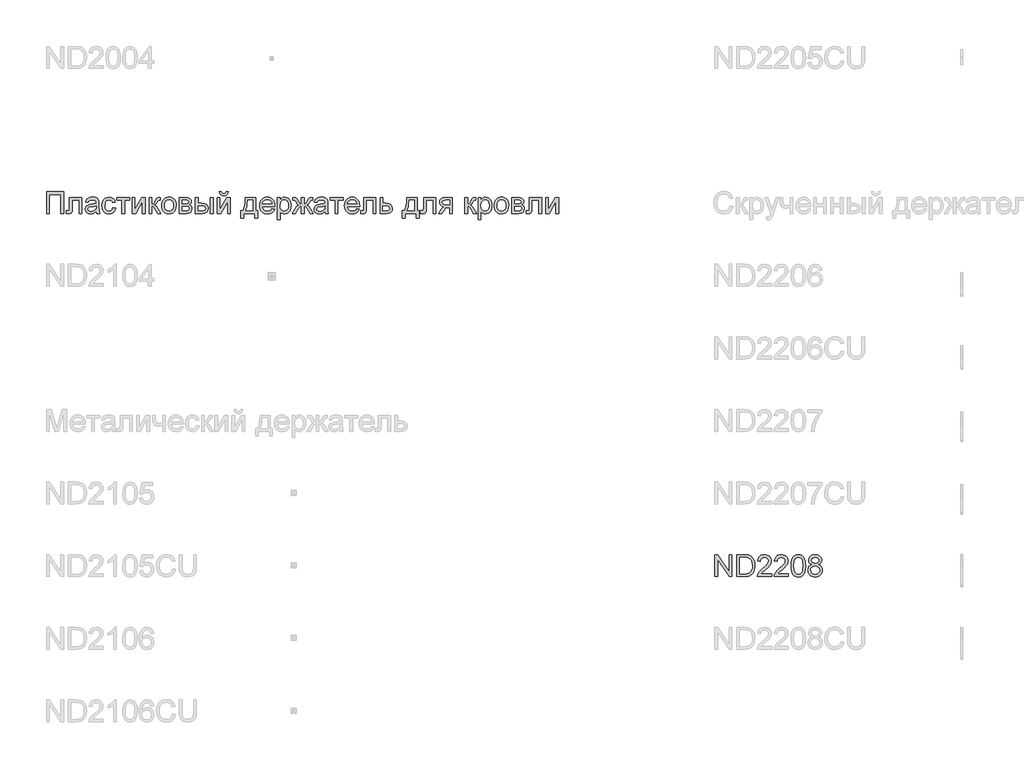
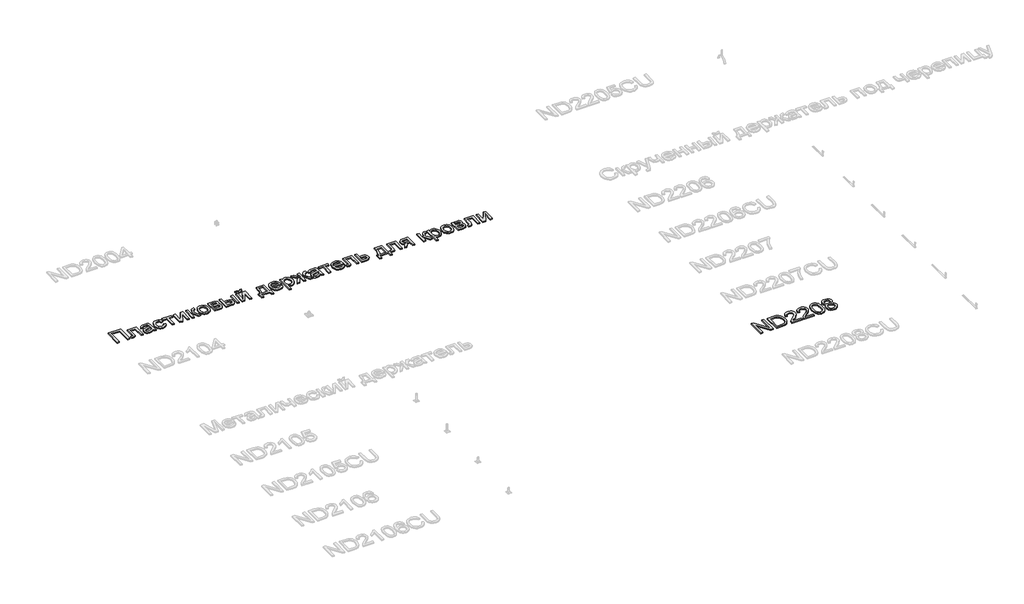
# One storey, part 91 of 124: 2 proxies.
"""IFC4 building model written with IfcOpenShell, lengths in millimetres."""

from ifc_helpers import new_model, si_unit, origin, origin_with_axes, place, context, project, spatial, polyline, outline, extrude, element, save

model = new_model("IFC4")

# Units and contexts
model_context = context("Model", 3, world=origin())
ifc_project = project(units=[si_unit("LENGTHUNIT", "METRE", prefix="MILLI")], contexts=[model_context])

# Site, building, storey
site = spatial("IfcSite", under=ifc_project)
building = spatial("IfcBuilding", under=site)
storey = spatial("IfcBuildingStorey", under=building, Name="Этаж 01", Elevation=0.0)

# Proxies
placement = place(None, origin())
element("IfcBuildingElementProxy", 1, Name="300", ObjectType="300", at=placement, inside=storey, context=model_context, shape_type="SweptSolid", body=[
    extrude(outline(polyline([(14140.1671275, -18218.1451728), (14375.6116044, -18218.1451728), (14375.6116044, -18519.5141033), (14337.9404881, -18519.5141033), (14337.9404881, -18255.8162891), (14177.8382438, -18255.8162891), (14177.8382438, -18519.5141033), (14140.1671275, -18519.5141033), (14140.1671275, -18218.1451728)])), origin_with_axes(), (0.0, 0.0, 1.0), 20.0),
    extrude(outline(polyline([(14455.6627266, -18298.196295), (14625.18275, -18298.196295), (14625.18275, -18519.2933741), (14587.5116337, -18519.2933741), (14587.5116337, -18335.8674113), (14493.3338429, -18335.8674113), (14493.3338429, -18441.4495439), (14490.7954571, -18490.15712), (14486.0405823, -18501.1843829), (14476.8527295, -18510.7217236), (14462.9100019, -18517.3160083), (14443.8905027, -18519.5141033), (14413.2827207, -18517.6011169), (14413.2827207, -18481.842987), (14430.1317161, -18481.842987), (14447.1646525, -18479.5253304), (14453.9704694, -18472.1676905), (14455.6627266, -18439.3158283), (14455.6627266, -18298.196295)])), origin_with_axes(), (0.0, 0.0, 1.0), 20.0),
    extrude(outline(polyline([(14822.9561106, -18491.260766), (14804.957484, -18506.6934157), (14786.4254285, -18516.7917765), (14766.9368798, -18522.3651887), (14746.0687736, -18524.2229928), (14714.5872718, -18519.7532266), (14691.3647209, -18506.3439278), (14677.0449142, -18485.9816594), (14672.2716454, -18460.652984), (14674.0742671, -18445.0363933), (14679.4821325, -18430.8545424), (14687.8238567, -18418.7144366), (14698.4280552, -18409.2230811), (14724.8051943, -18396.8622461), (14757.399539, -18391.1968633), (14795.9167839, -18385.237175), (14822.7353814, -18378.2474171), (14822.9561106, -18369.8597076), (14820.3625425, -18353.0475004), (14812.5818383, -18342.0478288), (14795.1810199, -18333.8808485), (14770.9375965, -18331.1585217), (14748.4967948, -18332.9703406), (14732.8250218, -18338.405797), (14722.1380498, -18348.4581726), (14714.6516512, -18364.1207485), (14676.9805349, -18359.411859), (14683.5196374, -18338.8104672), (14693.2777073, -18322.6236594), (14707.1652526, -18310.2444303), (14726.0927812, -18301.0657745), (14749.2417558, -18295.3819977), (14775.7936388, -18293.4874054), (14801.2602699, -18295.1612685), (14821.4477944, -18300.1828577), (14836.6689119, -18307.7336357), (14847.2363223, -18316.9950649), (14854.2444743, -18328.445392), (14858.7878169, -18342.5628636), (14860.6272269, -18375.5250903), (14860.6272269, -18422.3932565), (14862.5402133, -18487.8394635), (14870.045006, -18519.5141033), (14832.3738897, -18519.5141033), (14822.9561106, -18491.260766)]), holes=[polyline([(14822.9561106, -18415.9185334), (14762.182005, -18427.4700281), (14729.7716012, -18433.5768692), (14715.0931096, -18443.5096831), (14709.9427617, -18458.0042337), (14712.7478619, -18469.2062404), (14721.1631625, -18478.3848962), (14735.0047226, -18484.5101314), (14754.0886011, -18486.5518765), (14774.3221108, -18484.2985993), (14792.2011758, -18477.5387676), (14806.6957264, -18467.5783626), (14816.7756931, -18455.7233653), (14821.2454593, -18443.5096831), (14822.7353814, -18426.5871113), (14822.9561106, -18415.9185334)])]), origin_with_axes(), (0.0, 0.0, 1.0), 20.0),
    extrude(outline(polyline([(15053.691698, -18439.4629811), (15091.3628143, -18444.1718706), (15080.8597833, -18477.6767234), (15061.1229143, -18502.9962017), (15034.0100112, -18518.916295), (15001.3788782, -18524.2229928), (14980.2509554, -18522.3720865), (14961.3073319, -18516.8193676), (14944.5480078, -18507.5648362), (14929.972983, -18494.6084922), (14918.1754672, -18478.1940574), (14909.7486703, -18458.5652537), (14904.6925921, -18435.7220811), (14903.0072327, -18409.6645395), (14905.8859093, -18376.1412927), (14914.5219392, -18347.0878121), (14929.053278, -18323.6261379), (14949.6178815, -18306.87831), (14974.2199899, -18296.8351316), (15000.8638434, -18293.4874054), (15032.6948331, -18298.0859304), (15058.1430701, -18311.8815052), (15076.3992141, -18334.1383659), (15086.6539247, -18364.1207485), (15048.9828084, -18368.829638), (15042.1494004, -18352.3945099), (15031.5084136, -18340.613089), (15017.6484595, -18333.5221635), (15001.158149, -18331.1585217), (14976.813558, -18335.812229), (14957.4905562, -18349.7733507), (14944.8814008, -18373.796045), (14940.678349, -18408.6344699), (14944.7894303, -18443.9419444), (14957.1226742, -18468.0474121), (14976.0961881, -18481.9257604), (15000.1280795, -18486.5518765), (15019.6350222, -18483.6640028), (15035.628692, -18475.0003818), (15047.2629601, -18460.3402843), (15053.691698, -18439.4629811)])), origin_with_axes(), (0.0, 0.0, 1.0), 20.0),
    extrude(outline(polyline([(15105.4894829, -18298.196295), (15284.4272853, -18298.196295), (15284.4272853, -18335.8674113), (15213.7939423, -18335.8674113), (15213.7939423, -18519.5141033), (15176.1228259, -18519.5141033), (15176.1228259, -18335.8674113), (15105.4894829, -18335.8674113), (15105.4894829, -18298.196295)])), origin_with_axes(), (0.0, 0.0, 1.0), 20.0),
    extrude(outline(polyline([(15317.3895121, -18298.196295), (15355.0606284, -18298.196295), (15355.0606284, -18466.9805543), (15447.6197384, -18298.196295), (15496.3273145, -18298.196295), (15496.3273145, -18519.5141033), (15458.6561982, -18519.5141033), (15458.6561982, -18351.7599135), (15366.6856994, -18519.5141033), (15317.3895121, -18519.5141033), (15317.3895121, -18298.196295)])), origin_with_axes(), (0.0, 0.0, 1.0), 20.0),
    extrude(outline(polyline([(15552.833989, -18298.196295), (15590.5051053, -18298.196295), (15590.5051053, -18392.3740857), (15605.8273904, -18390.6818285), (15615.7418102, -18385.605057), (15624.5157958, -18372.3613052), (15636.4167783, -18346.1681071), (15653.5968675, -18312.1390226), (15668.7536057, -18301.0657745), (15696.3079671, -18298.196295), (15703.5184542, -18298.196295), (15703.5184542, -18336.0881405), (15693.3649112, -18335.8674113), (15674.9708114, -18339.8405368), (15662.0213652, -18364.6357833), (15646.8278388, -18391.4543807), (15625.5274713, -18404.587768), (15637.465242, -18409.8898672), (15649.2926481, -18419.2478655), (15672.6163666, -18450.131559), (15712.9362333, -18519.5141033), (15670.1147691, -18519.5141033), (15630.6042428, -18451.603087), (15610.738615, -18422.8715031), (15601.4495947, -18417.6567758), (15590.5051053, -18415.9185334), (15590.5051053, -18519.5141033), (15552.833989, -18519.5141033), (15552.833989, -18298.196295)])), origin_with_axes(), (0.0, 0.0, 1.0), 20.0),
    extrude(outline(polyline([(15727.0629019, -18408.8551991), (15729.1000485, -18380.1925932), (15735.2114881, -18355.4939157), (15745.3972209, -18334.7591668), (15759.6572467, -18317.9883463), (15774.0138416, -18307.2691847), (15789.8603585, -18299.6126406), (15807.1967975, -18295.0187142), (15826.0231586, -18293.4874054), (15846.8061921, -18295.3521073), (15865.5980643, -18300.9462129), (15882.3987751, -18310.2697222), (15897.2083247, -18323.3226352), (15909.2955475, -18339.6634936), (15917.9292781, -18358.8508389), (15923.1095164, -18380.8846712), (15924.8362625, -18405.7649904), (15921.782842, -18443.8223828), (15912.6225803, -18472.7930899), (15897.6221919, -18494.4889305), (15877.0483914, -18510.7217236), (15852.6118298, -18520.8476755), (15826.0231586, -18524.2229928), (15804.9366225, -18522.3651887), (15785.9700064, -18516.7917765), (15769.1233103, -18507.5027561), (15754.3965342, -18494.4981276), (15742.4380701, -18477.9986201), (15733.89631, -18458.2249629), (15728.7712539, -18435.1771559), (15727.0629019, -18408.8551991)]), holes=[polyline([(15764.7340182, -18408.7816227), (15769.0934199, -18442.8750866), (15782.1716248, -18467.1644953), (15801.8533115, -18481.7050312), (15826.0231586, -18486.5518765), (15850.0826411, -18481.6774401), (15869.7275397, -18467.0541307), (15882.8057446, -18442.4428253), (15887.1651462, -18407.6044003), (15882.7781534, -18374.5042178), (15869.6171751, -18350.5459029), (15849.9446854, -18336.005367), (15826.0231586, -18331.1585217), (15801.8533115, -18335.9869729), (15782.1716248, -18350.4723265), (15769.0934199, -18374.7065529), (15764.7340182, -18408.7816227)])]), origin_with_axes(), (0.0, 0.0, 1.0), 20.0),
    extrude(outline(polyline([(15967.2162684, -18298.196295), (16050.2104465, -18298.196295), (16076.8910882, -18299.4562908), (16095.7174493, -18303.2362783), (16109.5682064, -18310.373189), (16121.3220362, -18321.7039545), (16129.3510607, -18336.4652195), (16132.0274022, -18353.893629), (16130.4087214, -18367.9375242), (16125.5526791, -18380.0500389), (16117.4408811, -18390.2863554), (16106.0549334, -18398.701656), (16119.997661, -18406.5283455), (16131.3652146, -18419.1191068), (16138.9251896, -18435.4806585), (16141.4451813, -18454.6197193), (16135.0624287, -18483.332909), (16119.8872964, -18503.5480247), (16095.8646021, -18515.5225836), (16062.9391635, -18519.5141033), (15967.2162684, -18519.5141033), (15967.2162684, -18298.196295)]), holes=[polyline([(16004.8873847, -18382.9563067), (16042.1170426, -18382.9563067), (16072.8351892, -18381.0433203), (16087.7711982, -18373.3913748), (16092.710014, -18367.0638045), (16094.3562859, -18359.5590118), (16091.4684122, -18348.3202168), (16082.8047913, -18341.0913356), (16067.1514124, -18337.1733924), (16043.294265, -18335.8674113), (16004.8873847, -18335.8674113), (16004.8873847, -18382.9563067)]), polyline([(16004.8873847, -18481.842987), (16051.0933633, -18481.842987), (16076.2748858, -18480.1415327), (16092.0754175, -18475.03717), (16100.5550975, -18465.7573467), (16103.774065, -18451.5295106), (16102.1645813, -18442.1025344), (16097.3361301, -18433.3929282), (16089.9233079, -18426.5779142), (16080.5607111, -18422.8347149), (16047.4145433, -18420.627423), (16004.8873847, -18420.627423), (16004.8873847, -18481.842987)])]), origin_with_axes(), (0.0, 0.0, 1.0), 20.0),
    extrude(outline(polyline([(16395.7252164, -18298.196295), (16433.3963327, -18298.196295), (16433.3963327, -18519.5141033), (16395.7252164, -18519.5141033), (16395.7252164, -18298.196295)])), origin_with_axes(), (0.0, 0.0, 1.0), 20.0),
    extrude(outline(polyline([(16188.5340767, -18298.196295), (16226.205193, -18298.196295), (16226.205193, -18378.2474171), (16272.7790536, -18378.2474171), (16313.0345409, -18382.9655037), (16329.2512391, -18388.8631119), (16342.8605736, -18397.1197635), (16353.6280198, -18407.4503497), (16361.3190528, -18419.5697622), (16365.9336725, -18433.4780009), (16367.4718791, -18449.1750658), (16362.3123341, -18476.131619), (16346.8336992, -18498.8759233), (16334.9718041, -18507.9051271), (16320.0242988, -18514.3545583), (16280.8724575, -18519.5141033), (16188.5340767, -18519.5141033), (16188.5340767, -18298.196295)]), holes=[polyline([(16226.205193, -18481.842987), (16264.9063789, -18481.842987), (16294.9071556, -18479.8656212), (16314.8647538, -18473.9335241), (16326.0667606, -18463.8075721), (16329.8007628, -18449.2486422), (16327.0324508, -18436.9429894), (16318.7275148, -18426.0720765), (16300.9680114, -18418.4569192), (16269.8359976, -18415.9185334), (16226.205193, -18415.9185334), (16226.205193, -18481.842987)])]), origin_with_axes(), (0.0, 0.0, 1.0), 20.0),
    extrude(outline(polyline([(16489.9030071, -18298.196295), (16527.5741234, -18298.196295), (16527.5741234, -18466.9805543), (16620.1332334, -18298.196295), (16668.8408096, -18298.196295), (16668.8408096, -18519.5141033), (16631.1696933, -18519.5141033), (16631.1696933, -18351.7599135), (16539.1991945, -18519.5141033), (16489.9030071, -18519.5141033), (16489.9030071, -18298.196295)])), origin_with_axes(), (0.0, 0.0, 1.0), 20.0),
    extrude(outline(polyline([(16612.3341351, -18218.1451728), (16640.5874723, -18218.1451728), (16634.5082224, -18242.2690346), (16622.3037372, -18260.0469321), (16604.5258398, -18271.0006185), (16581.7263531, -18274.6518473), (16556.9862889, -18271.0282096), (16537.8012429, -18260.1572967), (16524.6862498, -18242.4069904), (16518.1563444, -18218.1451728), (16546.4096816, -18218.1451728), (16550.3828071, -18230.5519931), (16557.004683, -18239.3719639), (16566.3120975, -18244.6418735), (16578.3418388, -18246.39851), (16591.9166844, -18244.6970558), (16601.7391337, -18239.5926931), (16608.3610096, -18230.8279046), (16612.3341351, -18218.1451728)])), origin_with_axes(), (0.0, 0.0, 1.0), 20.0),
    extrude(outline(polyline([(16876.0319493, -18298.196295), (17017.2986354, -18298.196295), (17017.2986354, -18481.842987), (17045.5519726, -18481.842987), (17045.5519726, -18580.7296673), (17007.8808563, -18580.7296673), (17007.8808563, -18519.5141033), (16852.4875016, -18519.5141033), (16852.4875016, -18580.7296673), (16814.8163853, -18580.7296673), (16814.8163853, -18481.842987), (16838.360833, -18481.842987), (16855.4765428, -18450.9133082), (16867.4602988, -18409.9956333), (16874.3121009, -18359.0899622), (16876.0319493, -18298.196295)]), holes=[polyline([(16908.994176, -18335.8674113), (16905.9039673, -18381.9906164), (16900.1650081, -18421.6942807), (16891.7772987, -18454.9784043), (16880.7408388, -18481.842987), (16979.6275191, -18481.842987), (16979.6275191, -18335.8674113), (16908.994176, -18335.8674113)])]), origin_with_axes(), (0.0, 0.0, 1.0), 20.0),
    extrude(outline(polyline([(17242.8838748, -18453.5896497), (17279.8192272, -18458.2985393), (17266.511096, -18486.1288122), (17245.2751078, -18506.932539), (17216.5895092, -18519.9003794), (17180.9325469, -18524.2229928), (17157.5582446, -18522.3582909), (17136.7315251, -18516.7641853), (17118.4523885, -18507.440676), (17102.7208347, -18494.387763), (17090.0702926, -18477.9687297), (17081.0341911, -18458.5468596), (17075.6125302, -18436.1221527), (17073.8053099, -18410.6946091), (17075.6309243, -18384.404842), (17081.1077675, -18361.2328748), (17090.2358395, -18341.1787076), (17103.0151403, -18324.2423402), (17118.7053074, -18310.7870562), (17136.5659782, -18301.1761391), (17156.5971529, -18295.4095888), (17178.7988313, -18293.4874054), (17200.2854391, -18295.4049903), (17219.7165062, -18301.157745), (17237.0920327, -18310.7456695), (17252.4120185, -18324.1687638), (17264.9177071, -18341.068343), (17273.8503418, -18361.085722), (17279.2099226, -18384.220901), (17280.9964495, -18410.4738799), (17280.7757204, -18420.627423), (17111.4764262, -18420.627423), (17117.9971345, -18448.8255779), (17133.1446757, -18469.5557283), (17155.0060633, -18482.3028394), (17181.6683109, -18486.5518765), (17201.7178796, -18484.5837078), (17218.6036632, -18478.6792018), (17232.3256616, -18468.4704764), (17242.8838748, -18453.5896497)]), holes=[polyline([(17111.4764262, -18382.9563067), (17243.3253332, -18382.9563067), (17238.2301676, -18363.0538907), (17228.2421714, -18348.8168575), (17206.2796163, -18335.5731057), (17178.6516785, -18331.1585217), (17153.2586238, -18334.6809918), (17132.2617589, -18345.2484021), (17117.6660407, -18361.7203185), (17111.4764262, -18382.9563067)])]), origin_with_axes(), (0.0, 0.0, 1.0), 20.0),
    extrude(outline(polyline([(17318.6675659, -18604.2741149), (17318.6675659, -18298.196295), (17356.3386822, -18298.196295), (17356.3386822, -18335.1316473), (17368.6259408, -18316.9122915), (17382.3847274, -18303.8984659), (17398.4243824, -18296.0901705), (17417.5542462, -18293.4874054), (17443.0300743, -18297.1294372), (17465.3053291, -18308.0555324), (17483.4419115, -18325.6035036), (17496.5017223, -18349.1111631), (17504.3927911, -18376.8678596), (17507.0231474, -18407.1629419), (17504.0525003, -18439.3802077), (17495.1405589, -18468.1945649), (17480.5724319, -18492.1436828), (17460.6332278, -18509.7652304), (17437.4106768, -18520.6085522), (17412.9925094, -18524.2229928), (17395.6744645, -18521.8041687), (17380.2142236, -18514.5476963), (17366.9796689, -18503.5940099), (17356.3386822, -18490.0835436), (17356.3386822, -18604.2741149), (17318.6675659, -18604.2741149)]), holes=[polyline([(17356.3386822, -18410.6210327), (17360.4129753, -18444.3925998), (17372.6358545, -18468.0106239), (17390.6712694, -18481.9165634), (17412.183169, -18486.5518765), (17434.0445566, -18481.7510165), (17452.5398239, -18467.3484363), (17465.1489793, -18442.8658896), (17469.3520311, -18407.8251295), (17465.2501468, -18374.2375034), (17452.9444941, -18350.2883855), (17434.9366704, -18335.9409877), (17413.7282734, -18331.1585217), (17392.4371029, -18336.2444903), (17373.7395005, -18351.5023961), (17360.6888868, -18376.4539924), (17356.3386822, -18410.6210327)])]), origin_with_axes(), (0.0, 0.0, 1.0), 20.0),
    extrude(outline(polyline([(17685.9609498, -18298.196295), (17685.9609498, -18392.3740857), (17699.2506869, -18390.4335082), (17707.923505, -18384.6117756), (17728.7088377, -18344.3286972), (17741.676678, -18319.220751), (17753.5040842, -18305.7010877), (17767.8698761, -18300.0724931), (17788.7471793, -18298.196295), (17803.6831883, -18298.196295), (17803.6831883, -18336.0881405), (17793.308916, -18335.8674113), (17773.8847467, -18339.7669604), (17760.4202657, -18364.1943249), (17744.7852809, -18390.9761341), (17722.4548438, -18404.587768), (17734.8478685, -18409.8898672), (17747.0845433, -18419.2478655), (17771.0888435, -18450.131559), (17813.1009674, -18519.5141033), (17769.9116211, -18519.5141033), (17728.5616849, -18451.0880522), (17717.2585106, -18433.1262137), (17707.4820466, -18422.6507739), (17697.5952179, -18417.6015935), (17685.9609498, -18415.9185334), (17685.9609498, -18519.5141033), (17648.2898335, -18519.5141033), (17648.2898335, -18415.9185334), (17636.7475359, -18417.5648053), (17626.8423132, -18422.5036211), (17616.9922728, -18432.9054845), (17605.6155221, -18450.9408994), (17564.2655858, -18519.5141033), (17521.149816, -18519.5141033), (17563.0147871, -18450.131559), (17587.2030282, -18419.2478655), (17599.5040824, -18409.8898672), (17611.9430924, -18404.587768), (17597.5589064, -18397.3772809), (17588.2514919, -18389.5781826), (17567.9444058, -18350.9505731), (17558.0115919, -18338.221856), (17541.7512077, -18335.6466821), (17530.5675951, -18335.8674113), (17530.5675951, -18298.196295), (17536.2329778, -18298.196295), (17569.268781, -18300.5507397), (17586.4120819, -18310.55713), (17605.6155221, -18344.3286972), (17626.1801256, -18384.3542582), (17634.8529437, -18390.3691289), (17648.2898335, -18392.3740857), (17648.2898335, -18298.196295), (17685.9609498, -18298.196295)])), origin_with_axes(), (0.0, 0.0, 1.0), 20.0),
    extrude(outline(polyline([(17973.2032117, -18491.260766), (17955.2045851, -18506.6934157), (17936.6725296, -18516.7917765), (17917.1839809, -18522.3651887), (17896.3158747, -18524.2229928), (17864.8343729, -18519.7532266), (17841.611822, -18506.3439278), (17827.2920153, -18485.9816594), (17822.5187464, -18460.652984), (17824.3213682, -18445.0363933), (17829.7292336, -18430.8545424), (17838.0709578, -18418.7144366), (17848.6751563, -18409.2230811), (17875.0522954, -18396.8622461), (17907.6466401, -18391.1968633), (17946.163885, -18385.237175), (17972.9824825, -18378.2474171), (17973.2032117, -18369.8597076), (17970.6096436, -18353.0475004), (17962.8289394, -18342.0478288), (17945.428121, -18333.8808485), (17921.1846976, -18331.1585217), (17898.7438959, -18332.9703406), (17883.0721229, -18338.405797), (17872.3851509, -18348.4581726), (17864.8987523, -18364.1207485), (17827.227636, -18359.411859), (17833.7667385, -18338.8104672), (17843.5248084, -18322.6236594), (17857.4123537, -18310.2444303), (17876.3398823, -18301.0657745), (17899.4888569, -18295.3819977), (17926.0407399, -18293.4874054), (17951.507371, -18295.1612685), (17971.6948955, -18300.1828577), (17986.916013, -18307.7336357), (17997.4834234, -18316.9950649), (18004.4915754, -18328.445392), (18009.034918, -18342.5628636), (18010.874328, -18375.5250903), (18010.874328, -18422.3932565), (18012.7873144, -18487.8394635), (18020.2921071, -18519.5141033), (17982.6209908, -18519.5141033), (17973.2032117, -18491.260766)]), holes=[polyline([(17973.2032117, -18415.9185334), (17912.4291061, -18427.4700281), (17880.0187023, -18433.5768692), (17865.3402107, -18443.5096831), (17860.1898628, -18458.0042337), (17862.994963, -18469.2062404), (17871.4102636, -18478.3848962), (17885.2518237, -18484.5101314), (17904.3357022, -18486.5518765), (17924.5692119, -18484.2985993), (17942.4482769, -18477.5387676), (17956.9428275, -18467.5783626), (17967.0227942, -18455.7233653), (17971.4925604, -18443.5096831), (17972.9824825, -18426.5871113), (17973.2032117, -18415.9185334)])]), origin_with_axes(), (0.0, 0.0, 1.0), 20.0),
    extrude(outline(polyline([(18043.8365547, -18298.196295), (18222.7743572, -18298.196295), (18222.7743572, -18335.8674113), (18152.1410141, -18335.8674113), (18152.1410141, -18519.5141033), (18114.4698978, -18519.5141033), (18114.4698978, -18335.8674113), (18043.8365547, -18335.8674113), (18043.8365547, -18298.196295)])), origin_with_axes(), (0.0, 0.0, 1.0), 20.0),
    extrude(outline(polyline([(18410.6884803, -18453.5896497), (18447.6238327, -18458.2985393), (18434.3157015, -18486.1288122), (18413.0797133, -18506.932539), (18384.3941147, -18519.9003794), (18348.7371524, -18524.2229928), (18325.3628501, -18522.3582909), (18304.5361306, -18516.7641853), (18286.256994, -18507.440676), (18270.5254402, -18494.387763), (18257.8748981, -18477.9687297), (18248.8387966, -18458.5468596), (18243.4171357, -18436.1221527), (18241.6099154, -18410.6946091), (18243.4355298, -18384.404842), (18248.912373, -18361.2328748), (18258.040445, -18341.1787076), (18270.8197458, -18324.2423402), (18286.5099129, -18310.7870562), (18304.3705837, -18301.1761391), (18324.4017584, -18295.4095888), (18346.6034368, -18293.4874054), (18368.0900446, -18295.4049903), (18387.5211117, -18301.157745), (18404.8966382, -18310.7456695), (18420.216624, -18324.1687638), (18432.7223126, -18341.068343), (18441.6549473, -18361.085722), (18447.0145281, -18384.220901), (18448.801055, -18410.4738799), (18448.5803258, -18420.627423), (18279.2810317, -18420.627423), (18285.80174, -18448.8255779), (18300.9492812, -18469.5557283), (18322.8106687, -18482.3028394), (18349.4729163, -18486.5518765), (18369.5224851, -18484.5837078), (18386.4082687, -18478.6792018), (18400.1302671, -18468.4704764), (18410.6884803, -18453.5896497)]), holes=[polyline([(18279.2810317, -18382.9563067), (18411.1299387, -18382.9563067), (18406.0347731, -18363.0538907), (18396.0467769, -18348.8168575), (18374.0842218, -18335.5731057), (18346.456284, -18331.1585217), (18321.0632293, -18334.6809918), (18300.0663644, -18345.2484021), (18285.4706462, -18361.7203185), (18279.2810317, -18382.9563067)])]), origin_with_axes(), (0.0, 0.0, 1.0), 20.0),
    extrude(outline(polyline([(18505.3077295, -18298.196295), (18674.8277529, -18298.196295), (18674.8277529, -18519.2933741), (18637.1566366, -18519.2933741), (18637.1566366, -18335.8674113), (18542.9788458, -18335.8674113), (18542.9788458, -18441.4495439), (18540.44046, -18490.15712), (18535.6855852, -18501.1843829), (18526.4977324, -18510.7217236), (18512.5550048, -18517.3160083), (18493.5355057, -18519.5141033), (18462.9277237, -18517.6011169), (18462.9277237, -18481.842987), (18479.776719, -18481.842987), (18496.8096554, -18479.5253304), (18503.6154723, -18472.1676905), (18505.3077295, -18439.3158283), (18505.3077295, -18298.196295)])), origin_with_axes(), (0.0, 0.0, 1.0), 20.0),
    extrude(outline(polyline([(18731.3344273, -18298.196295), (18769.0055436, -18298.196295), (18769.0055436, -18378.2474171), (18812.4156191, -18378.2474171), (18850.0499472, -18382.9655037), (18865.1974883, -18388.8631119), (18877.8986142, -18397.1197635), (18887.9417927, -18407.4503497), (18895.1154916, -18419.5697622), (18900.8544507, -18449.1750658), (18895.9708172, -18476.131619), (18881.3199168, -18498.8759233), (18870.0880196, -18507.9051271), (18855.9268621, -18514.3545583), (18818.8167658, -18519.5141033), (18731.3344273, -18519.5141033), (18731.3344273, -18298.196295)]), holes=[polyline([(18769.0055436, -18481.842987), (18804.1750624, -18481.842987), (18831.4627094, -18479.8656212), (18849.6084888, -18473.9335241), (18859.789623, -18463.8075721), (18863.1833344, -18449.2486422), (18860.6725398, -18436.9429894), (18853.1401559, -18426.0720765), (18836.9993334, -18418.4569192), (18808.6632227, -18415.9185334), (18769.0055436, -18415.9185334), (18769.0055436, -18481.842987)])]), origin_with_axes(), (0.0, 0.0, 1.0), 20.0),
    extrude(outline(polyline([(19098.6278113, -18298.196295), (19239.8944975, -18298.196295), (19239.8944975, -18481.842987), (19268.1478347, -18481.842987), (19268.1478347, -18580.7296673), (19230.4767184, -18580.7296673), (19230.4767184, -18519.5141033), (19075.0833636, -18519.5141033), (19075.0833636, -18580.7296673), (19037.4122473, -18580.7296673), (19037.4122473, -18481.842987), (19060.956695, -18481.842987), (19078.0724048, -18450.9133082), (19090.0561608, -18409.9956333), (19096.907963, -18359.0899622), (19098.6278113, -18298.196295)]), holes=[polyline([(19131.5900381, -18335.8674113), (19128.4998293, -18381.9906164), (19122.7608702, -18421.6942807), (19114.3731607, -18454.9784043), (19103.3367009, -18481.842987), (19202.2233812, -18481.842987), (19202.2233812, -18335.8674113), (19131.5900381, -18335.8674113)])]), origin_with_axes(), (0.0, 0.0, 1.0), 20.0),
    extrude(outline(polyline([(19329.3633987, -18298.196295), (19498.8834221, -18298.196295), (19498.8834221, -18519.2933741), (19461.2123058, -18519.2933741), (19461.2123058, -18335.8674113), (19367.034515, -18335.8674113), (19367.034515, -18441.4495439), (19364.4961292, -18490.15712), (19359.7412544, -18501.1843829), (19350.5534016, -18510.7217236), (19336.610674, -18517.3160083), (19317.5911748, -18519.5141033), (19286.9833928, -18517.6011169), (19286.9833928, -18481.842987), (19303.8323882, -18481.842987), (19320.8653246, -18479.5253304), (19327.6711415, -18472.1676905), (19329.3633987, -18439.3158283), (19329.3633987, -18298.196295)])), origin_with_axes(), (0.0, 0.0, 1.0), 20.0),
    extrude(outline(polyline([(19724.9101199, -18298.196295), (19724.9101199, -18519.5141033), (19687.2390036, -18519.5141033), (19687.2390036, -18434.7540916), (19666.7111883, -18434.7540916), (19638.7521566, -18439.5365575), (19627.5869381, -18449.9660121), (19612.4853822, -18471.6894439), (19582.4662114, -18519.5141033), (19538.9089831, -18519.5141033), (19576.7272523, -18459.0343033), (19593.4290948, -18437.3292655), (19608.8065622, -18427.6907573), (19583.0548226, -18419.7996885), (19564.9550284, -18404.8084972), (19554.2496623, -18384.869293), (19550.681207, -18362.1341857), (19555.5556434, -18336.3456579), (19570.1789527, -18315.9282071), (19594.0361001, -18302.629273), (19626.6120508, -18298.196295), (19724.9101199, -18298.196295)]), holes=[polyline([(19687.2390036, -18335.8674113), (19637.5749343, -18335.8674113), (19611.9243621, -18338.0471121), (19597.3654322, -18344.5862146), (19590.6056005, -18354.0499789), (19588.3523233, -18365.0036653), (19591.6724583, -18379.3602601), (19601.6328633, -18389.3206652), (19620.0361601, -18395.1423977), (19648.6849705, -18397.0829753), (19687.2390036, -18397.0829753), (19687.2390036, -18335.8674113)])]), origin_with_axes(), (0.0, 0.0, 1.0), 20.0),
    extrude(outline(polyline([(19899.1390328, -18298.196295), (19936.8101491, -18298.196295), (19936.8101491, -18392.3740857), (19952.1324342, -18390.6818285), (19962.046854, -18385.605057), (19970.8208396, -18372.3613052), (19982.7218221, -18346.1681071), (19999.9019113, -18312.1390226), (20015.0586495, -18301.0657745), (20042.6130109, -18298.196295), (20049.823498, -18298.196295), (20049.823498, -18336.0881405), (20039.669955, -18335.8674113), (20021.2758552, -18339.8405368), (20008.326409, -18364.6357833), (19993.1328826, -18391.4543807), (19971.8325151, -18404.587768), (19983.7702858, -18409.8898672), (19995.597692, -18419.2478655), (20018.9214105, -18450.131559), (20059.2412771, -18519.5141033), (20016.4198129, -18519.5141033), (19976.9092866, -18451.603087), (19957.0436589, -18422.8715031), (19947.7546385, -18417.6567758), (19936.8101491, -18415.9185334), (19936.8101491, -18519.5141033), (19899.1390328, -18519.5141033), (19899.1390328, -18298.196295)])), origin_with_axes(), (0.0, 0.0, 1.0), 20.0),
    extrude(outline(polyline([(20082.7857248, -18604.2741149), (20082.7857248, -18298.196295), (20120.4568411, -18298.196295), (20120.4568411, -18335.1316473), (20132.7440998, -18316.9122915), (20146.5028864, -18303.8984659), (20162.5425414, -18296.0901705), (20181.6724051, -18293.4874054), (20207.1482333, -18297.1294372), (20229.4234881, -18308.0555324), (20247.5600705, -18325.6035036), (20260.6198813, -18349.1111631), (20268.5109501, -18376.8678596), (20271.1413063, -18407.1629419), (20268.1706592, -18439.3802077), (20259.2587179, -18468.1945649), (20244.6905909, -18492.1436828), (20224.7513868, -18509.7652304), (20201.5288358, -18520.6085522), (20177.1106684, -18524.2229928), (20159.7926235, -18521.8041687), (20144.3323826, -18514.5476963), (20131.0978278, -18503.5940099), (20120.4568411, -18490.0835436), (20120.4568411, -18604.2741149), (20082.7857248, -18604.2741149)]), holes=[polyline([(20120.4568411, -18410.6210327), (20124.5311342, -18444.3925998), (20136.7540135, -18468.0106239), (20154.7894283, -18481.9165634), (20176.301328, -18486.5518765), (20198.1627156, -18481.7510165), (20216.6579829, -18467.3484363), (20229.2671382, -18442.8658896), (20233.47019, -18407.8251295), (20229.3683058, -18374.2375034), (20217.0626531, -18350.2883855), (20199.0548294, -18335.9409877), (20177.8464324, -18331.1585217), (20156.5552619, -18336.2444903), (20137.8576595, -18351.5023961), (20124.8070457, -18376.4539924), (20120.4568411, -18410.6210327)])]), origin_with_axes(), (0.0, 0.0, 1.0), 20.0),
    extrude(outline(polyline([(20304.1035331, -18408.8551991), (20306.1406797, -18380.1925932), (20312.2521193, -18355.4939157), (20322.437852, -18334.7591668), (20336.6978779, -18317.9883463), (20351.0544727, -18307.2691847), (20366.9009897, -18299.6126406), (20384.2374287, -18295.0187142), (20403.0637898, -18293.4874054), (20423.8468233, -18295.3521073), (20442.6386954, -18300.9462129), (20459.4394063, -18310.2697222), (20474.2489559, -18323.3226352), (20486.3361787, -18339.6634936), (20494.9699093, -18358.8508389), (20500.1501476, -18380.8846712), (20501.8768937, -18405.7649904), (20498.8234732, -18443.8223828), (20489.6632115, -18472.7930899), (20474.6628231, -18494.4889305), (20454.0890225, -18510.7217236), (20429.652461, -18520.8476755), (20403.0637898, -18524.2229928), (20381.9772537, -18522.3651887), (20363.0106376, -18516.7917765), (20346.1639415, -18507.5027561), (20331.4371654, -18494.4981276), (20319.4787013, -18477.9986201), (20310.9369412, -18458.2249629), (20305.8118851, -18435.1771559), (20304.1035331, -18408.8551991)]), holes=[polyline([(20341.7746494, -18408.7816227), (20346.1340511, -18442.8750866), (20359.212256, -18467.1644953), (20378.8939427, -18481.7050312), (20403.0637898, -18486.5518765), (20427.1232723, -18481.6774401), (20446.7681708, -18467.0541307), (20459.8463758, -18442.4428253), (20464.2057774, -18407.6044003), (20459.8187846, -18374.5042178), (20446.6578062, -18350.5459029), (20426.9853166, -18336.005367), (20403.0637898, -18331.1585217), (20378.8939427, -18335.9869729), (20359.212256, -18350.4723265), (20346.1340511, -18374.7065529), (20341.7746494, -18408.7816227)])]), origin_with_axes(), (0.0, 0.0, 1.0), 20.0),
    extrude(outline(polyline([(20544.2568996, -18298.196295), (20627.2510777, -18298.196295), (20653.9317194, -18299.4562908), (20672.7580805, -18303.2362783), (20686.6088376, -18310.373189), (20698.3626673, -18321.7039545), (20706.3916919, -18336.4652195), (20709.0680334, -18353.893629), (20707.4493526, -18367.9375242), (20702.5933103, -18380.0500389), (20694.4815123, -18390.2863554), (20683.0955645, -18398.701656), (20697.0382922, -18406.5283455), (20708.4058458, -18419.1191068), (20715.9658208, -18435.4806585), (20718.4858125, -18454.6197193), (20712.1030599, -18483.332909), (20696.9279276, -18503.5480247), (20672.9052333, -18515.5225836), (20639.9797947, -18519.5141033), (20544.2568996, -18519.5141033), (20544.2568996, -18298.196295)]), holes=[polyline([(20581.9280159, -18382.9563067), (20619.1576738, -18382.9563067), (20649.8758204, -18381.0433203), (20664.8118294, -18373.3913748), (20669.7506452, -18367.0638045), (20671.3969171, -18359.5590118), (20668.5090434, -18348.3202168), (20659.8454225, -18341.0913356), (20644.1920436, -18337.1733924), (20620.3348962, -18335.8674113), (20581.9280159, -18335.8674113), (20581.9280159, -18382.9563067)]), polyline([(20581.9280159, -18481.842987), (20628.1339945, -18481.842987), (20653.315517, -18480.1415327), (20669.1160487, -18475.03717), (20677.5957287, -18465.7573467), (20680.8146962, -18451.5295106), (20679.2052124, -18442.1025344), (20674.3767613, -18433.3929282), (20666.9639391, -18426.5779142), (20657.6013423, -18422.8347149), (20624.4551745, -18420.627423), (20581.9280159, -18420.627423), (20581.9280159, -18481.842987)])]), origin_with_axes(), (0.0, 0.0, 1.0), 20.0),
    extrude(outline(polyline([(20784.410266, -18298.196295), (20953.9302894, -18298.196295), (20953.9302894, -18519.2933741), (20916.2591731, -18519.2933741), (20916.2591731, -18335.8674113), (20822.0813823, -18335.8674113), (20822.0813823, -18441.4495439), (20819.5429966, -18490.15712), (20814.7881218, -18501.1843829), (20805.6002689, -18510.7217236), (20791.6575413, -18517.3160083), (20772.6380422, -18519.5141033), (20742.0302602, -18517.6011169), (20742.0302602, -18481.842987), (20758.8792556, -18481.842987), (20775.9121919, -18479.5253304), (20782.7180088, -18472.1676905), (20784.410266, -18439.3158283), (20784.410266, -18298.196295)])), origin_with_axes(), (0.0, 0.0, 1.0), 20.0),
    extrude(outline(polyline([(21010.4369639, -18298.196295), (21048.1080802, -18298.196295), (21048.1080802, -18466.9805543), (21140.6671901, -18298.196295), (21189.3747663, -18298.196295), (21189.3747663, -18519.5141033), (21151.70365, -18519.5141033), (21151.70365, -18351.7599135), (21059.7331512, -18519.5141033), (21010.4369639, -18519.5141033), (21010.4369639, -18298.196295)])), origin_with_axes(), (0.0, 0.0, 1.0), 20.0),
])
element("IfcBuildingElementProxy", 2, Name="300", ObjectType="300", at=placement, inside=storey, context=model_context, shape_type="SweptSolid", body=[
    extrude(outline(polyline([(23340.1671275, -23519.5141033), (23340.1671275, -23218.1451728), (23380.4869942, -23218.1451728), (23537.9404881, -23456.9005877), (23537.9404881, -23218.1451728), (23575.6116044, -23218.1451728), (23575.6116044, -23519.5141033), (23535.2917378, -23519.5141033), (23377.8382438, -23280.685112), (23377.8382438, -23519.5141033), (23340.1671275, -23519.5141033)])), origin_with_axes(), (0.0, 0.0, 1.0), 20.0),
    extrude(outline(polyline([(23641.536058, -23519.5141033), (23641.536058, -23218.1451728), (23745.4995098, -23218.1451728), (23799.2838575, -23222.4861804), (23823.3065518, -23230.8554957), (23843.5768497, -23244.0440653), (23864.4173648, -23266.9999018), (23879.2614033, -23295.5475446), (23888.1457534, -23329.1351708), (23891.1072035, -23367.2109573), (23889.1022466, -23399.5569817), (23883.087376, -23428.0218511), (23873.9271143, -23452.2560775), (23862.4859843, -23471.9101731), (23849.3158089, -23487.4255962), (23834.968411, -23499.2438053), (23818.4964947, -23508.0085939), (23798.9527637, -23514.3637553), (23750.5027049, -23519.5141033), (23641.536058, -23519.5141033)]), holes=[polyline([(23679.2071743, -23481.842987), (23745.8673918, -23481.842987), (23773.4401473, -23480.4818236), (23794.3542388, -23476.3983334), (23810.1363764, -23469.8316398), (23822.3132704, -23461.020866), (23835.4006724, -23444.7144966), (23845.2323187, -23423.6072671), (23851.3851451, -23397.6072071), (23853.4360872, -23366.6223461), (23849.4169764, -23325.5667154), (23837.359644, -23295.253239), (23819.5449584, -23274.4311181), (23798.2537879, -23261.8495538), (23776.5855384, -23257.3246053), (23744.8373222, -23255.8162891), (23679.2071743, -23255.8162891), (23679.2071743, -23481.842987)])]), origin_with_axes(), (0.0, 0.0, 1.0), 20.0),
    extrude(outline(polyline([(24121.8427909, -23481.842987), (24121.8427909, -23519.5141033), (23924.0694303, -23519.5141033), (23928.1161322, -23493.5416344), (23937.4051526, -23473.2437453), (23950.9983923, -23453.5528615), (23970.661685, -23432.9422727), (23998.1608641, -23409.8852687), (24038.8118246, -23373.7776509), (24063.2024008, -23347.1246003), (24075.397689, -23325.493139), (24079.462785, -23304.4502889), (24075.6276152, -23285.5871396), (24064.1221058, -23269.9061695), (24046.4361789, -23259.3387592), (24024.0597566, -23255.8162891), (24000.5612941, -23259.2559858), (23982.3051501, -23269.5750757), (23970.5237292, -23285.9642186), (23966.4494361, -23307.614074), (23928.7783198, -23302.9051845), (23937.9109903, -23266.4664729), (23946.4573489, -23251.9305355), (23957.6570564, -23239.8502105), (23971.2525954, -23230.3542565), (23986.9864485, -23223.5714322), (24024.869097, -23218.1451728), (24045.0589207, -23219.653489), (24063.0276569, -23224.1784375), (24078.7753056, -23231.7200184), (24092.3018667, -23242.2782317), (24103.1658818, -23255.0713281), (24110.9258927, -23269.3175583), (24115.5818992, -23285.0169225), (24117.1339013, -23302.1694205), (24115.4600383, -23320.1864412), (24110.438449, -23337.8907622), (24101.5265077, -23355.8985859), (24088.1815883, -23374.8261146), (24066.9088119, -23397.4232661), (24034.2132996, -23426.4399585), (23990.8768006, -23462.676335), (23973.8806524, -23481.842987), (24121.8427909, -23481.842987)])), origin_with_axes(), (0.0, 0.0, 1.0), 20.0),
    extrude(outline(polyline([(24352.5783783, -23481.842987), (24352.5783783, -23519.5141033), (24154.8050176, -23519.5141033), (24158.8517196, -23493.5416344), (24168.14074, -23473.2437453), (24181.7339797, -23453.5528615), (24201.3972723, -23432.9422727), (24228.8964515, -23409.8852687), (24269.5474119, -23373.7776509), (24293.9379882, -23347.1246003), (24306.1332764, -23325.493139), (24310.1983724, -23304.4502889), (24306.3632026, -23285.5871396), (24294.8576932, -23269.9061695), (24277.1717663, -23259.3387592), (24254.7953439, -23255.8162891), (24231.2968815, -23259.2559858), (24213.0407375, -23269.5750757), (24201.2593166, -23285.9642186), (24197.1850235, -23307.614074), (24159.5139072, -23302.9051845), (24168.6465777, -23266.4664729), (24177.1929363, -23251.9305355), (24188.3926438, -23239.8502105), (24201.9881828, -23230.3542565), (24217.7220359, -23223.5714322), (24255.6046843, -23218.1451728), (24275.7945081, -23219.653489), (24293.7632443, -23224.1784375), (24309.5108929, -23231.7200184), (24323.037454, -23242.2782317), (24333.9014692, -23255.0713281), (24341.66148, -23269.3175583), (24346.3174865, -23285.0169225), (24347.8694887, -23302.1694205), (24346.1956256, -23320.1864412), (24341.1740364, -23337.8907622), (24332.2620951, -23355.8985859), (24318.9171757, -23374.8261146), (24297.6443993, -23397.4232661), (24264.948887, -23426.4399585), (24221.612388, -23462.676335), (24204.6162398, -23481.842987), (24352.5783783, -23481.842987)])), origin_with_axes(), (0.0, 0.0, 1.0), 20.0),
    extrude(outline(polyline([(24390.2494946, -23371.2576592), (24393.0178066, -23323.0191326), (24401.3227426, -23284.5478729), (24415.0815292, -23255.2552691), (24434.211393, -23234.5527098), (24458.8502896, -23222.2470571), (24489.1361749, -23218.1451728), (24512.3495288, -23220.573194), (24533.1348615, -23227.8572575), (24550.5172858, -23239.7122548), (24563.5219143, -23255.8530773), (24573.3443636, -23276.1417694), (24581.1802501, -23300.4403751), (24586.3122039, -23331.2964775), (24588.0228552, -23371.2576592), (24585.2821343, -23419.2202743), (24577.0599717, -23457.5995635), (24563.3839585, -23486.9197585), (24544.2816859, -23507.7050912), (24519.587607, -23520.0935174), (24489.1361749, -23524.2229928), (24468.3876303, -23522.4295681), (24449.9935306, -23517.0492939), (24433.9538756, -23508.0821703), (24420.2686654, -23495.5281972), (24407.1352781, -23472.8344766), (24397.7542873, -23444.5581467), (24392.1256927, -23410.6992076), (24390.2494946, -23371.2576592)]), holes=[polyline([(24427.9206109, -23371.1840828), (24432.3351948, -23430.4406752), (24437.8534247, -23450.7086739), (24445.5789466, -23464.7364742), (24465.2974216, -23481.0980259), (24489.1361749, -23486.5518765), (24512.9749282, -23481.0796318), (24532.6934031, -23464.6628978), (24540.418925, -23450.6121048), (24545.9371549, -23430.3487047), (24550.3517389, -23371.1840828), (24546.0843077, -23313.2610627), (24540.7500188, -23293.0597426), (24533.2820143, -23278.6985492), (24513.6003275, -23261.5368541), (24488.6947165, -23255.8162891), (24465.1134806, -23260.8562725), (24446.1675578, -23275.9762225), (24438.1845185, -23291.6112072), (24432.4823476, -23312.6908456), (24427.9206109, -23371.1840828)])]), origin_with_axes(), (0.0, 0.0, 1.0), 20.0),
    extrude(outline(polyline([(24675.8730756, -23353.525747), (24655.7039452, -23343.5929332), (24641.5496855, -23330.1284521), (24633.1895671, -23313.4082155), (24630.402861, -23293.7081346), (24631.9203742, -23278.3444628), (24636.4729139, -23264.2591809), (24644.0604801, -23251.452289), (24654.6830727, -23239.9237869), (24667.8302555, -23230.3956433), (24682.9915922, -23223.5898263), (24719.3567274, -23218.1451728), (24755.9425919, -23223.718585), (24771.2694755, -23230.6853503), (24784.6189934, -23240.4388217), (24795.434724, -23252.1926515), (24803.1602459, -23265.1604918), (24807.7955591, -23279.3423427), (24809.3406635, -23294.7382042), (24806.5907456, -23313.8036886), (24798.3409918, -23330.2388167), (24784.4994317, -23343.6205243), (24764.9740948, -23353.525747), (24788.1598576, -23365.4727148), (24805.0364441, -23383.0666712), (24815.3279429, -23405.4614877), (24818.7584425, -23431.8110356), (24817.0569883, -23450.6006085), (24811.9526256, -23467.8266829), (24803.4453545, -23483.4892589), (24791.5351749, -23497.5883363), (24776.8474862, -23509.2409985), (24760.0076879, -23517.5643287), (24741.0157799, -23522.5583268), (24719.8717622, -23524.2229928), (24698.7277446, -23522.551429), (24679.7358366, -23517.5367375), (24662.8960382, -23509.1789185), (24648.2083496, -23497.4779717), (24636.29817, -23483.280026), (24627.7908988, -23467.4312098), (24622.6865362, -23449.9315231), (24620.9850819, -23430.780966), (24624.5535373, -23403.4105456), (24635.2589033, -23380.8961675), (24652.5493571, -23364.0103839), (24675.8730756, -23353.525747)]), holes=[polyline([(24668.0739773, -23294.8117806), (24671.4125064, -23311.2561058), (24681.4280937, -23324.389493), (24697.8264337, -23332.9979317), (24720.3132206, -23335.8674113), (24742.2757757, -23333.0163258), (24758.4257953, -23324.4630694), (24768.3586092, -23311.7711406), (24771.6695472, -23296.5040378), (24768.2482446, -23280.6575208), (24757.9843369, -23267.5517248), (24741.6135882, -23258.750148), (24719.8717622, -23255.8162891), (24697.9919806, -23258.6857687), (24681.6488229, -23267.2942074), (24671.4676887, -23279.9125598), (24668.0739773, -23294.8117806)]), polyline([(24658.6561982, -23429.4565908), (24664.9469804, -23457.8202927), (24673.6565866, -23469.9879897), (24687.2038411, -23479.0470838), (24703.4274371, -23484.6756783), (24720.1660678, -23486.5518765), (24745.8074429, -23482.6063421), (24765.0476712, -23470.7697389), (24777.0774125, -23452.8446887), (24781.0873262, -23430.6338132), (24776.9486538, -23408.0458587), (24764.5326365, -23389.7253354), (24744.8509497, -23377.5852295), (24718.9152691, -23373.5385276), (24693.6325789, -23377.5300472), (24674.5854886, -23389.5046062), (24662.6385208, -23407.4756416), (24658.6561982, -23429.4565908)])]), origin_with_axes(), (0.0, 0.0, 1.0), 20.0),
])

save(model, "model.ifc")
